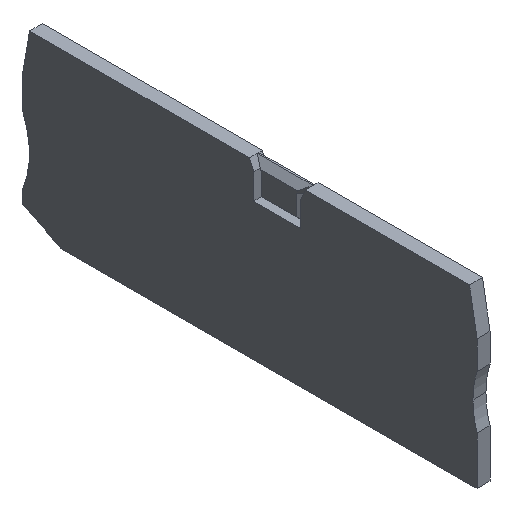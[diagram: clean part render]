
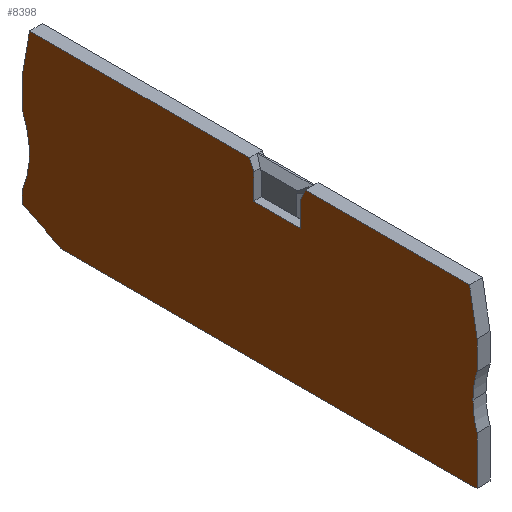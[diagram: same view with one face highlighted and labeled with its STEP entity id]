
A CAD part, isometric view. The second image highlights one B-rep face of the part: STEP entity #8398.
In plain terms, the highlighted planar face has unit normal (-1, 0, 0).
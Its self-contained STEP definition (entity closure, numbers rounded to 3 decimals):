
#7777=CARTESIAN_POINT('',(0.,75.619,29.05));
#7778=VERTEX_POINT('',#7777);
#7785=CARTESIAN_POINT('',(0.,38.418,29.05));
#7786=VERTEX_POINT('',#7785);
#7787=CARTESIAN_POINT('',(0.,75.619,29.05));
#7788=DIRECTION('',(-0.,-1.,-0.));
#7789=VECTOR('',#7788,37.201);
#7790=LINE('',#7787,#7789);
#7791=EDGE_CURVE('',#7778,#7786,#7790,.T.);
#7809=CARTESIAN_POINT('',(0.,28.982,29.05));
#7810=VERTEX_POINT('',#7809);
#7817=CARTESIAN_POINT('',(0.,1.181,29.05));
#7818=VERTEX_POINT('',#7817);
#7819=CARTESIAN_POINT('',(0.,28.982,29.05));
#7820=DIRECTION('',(-0.,-1.,-0.));
#7821=VECTOR('',#7820,27.801);
#7822=LINE('',#7819,#7821);
#7823=EDGE_CURVE('',#7810,#7818,#7822,.T.);
#8160=CARTESIAN_POINT('',(0.,37.7,23.05));
#8161=VERTEX_POINT('',#8160);
#8169=CARTESIAN_POINT('',(0.,37.7,27.35));
#8170=VERTEX_POINT('',#8169);
#8177=CARTESIAN_POINT('',(0.,37.7,23.05));
#8178=DIRECTION('',(0.,0.,1.));
#8179=VECTOR('',#8178,4.3);
#8180=LINE('',#8177,#8179);
#8181=EDGE_CURVE('',#8161,#8170,#8180,.T.);
#8194=CARTESIAN_POINT('',(0.,37.7,27.35));
#8195=DIRECTION('',(0.,0.389,0.921));
#8196=VECTOR('',#8195,1.846);
#8197=LINE('',#8194,#8196);
#8198=EDGE_CURVE('',#8170,#7786,#8197,.T.);
#8210=CARTESIAN_POINT('',(0.,29.7,27.35));
#8211=VERTEX_POINT('',#8210);
#8218=CARTESIAN_POINT('',(0.,28.982,29.05));
#8219=DIRECTION('',(0.,0.389,-0.921));
#8220=VECTOR('',#8219,1.846);
#8221=LINE('',#8218,#8220);
#8222=EDGE_CURVE('',#7810,#8211,#8221,.T.);
#8234=CARTESIAN_POINT('',(0.,29.7,23.05));
#8235=VERTEX_POINT('',#8234);
#8242=CARTESIAN_POINT('',(0.,29.7,27.35));
#8243=DIRECTION('',(0.,0.,-1.));
#8244=VECTOR('',#8243,4.3);
#8245=LINE('',#8242,#8244);
#8246=EDGE_CURVE('',#8211,#8235,#8245,.T.);
#8278=CARTESIAN_POINT('',(0.,-0.1,21.787));
#8279=VERTEX_POINT('',#8278);
#8288=CARTESIAN_POINT('',(0.,-0.1,21.787));
#8289=DIRECTION('',(0.,0.174,0.985));
#8290=VECTOR('',#8289,7.375);
#8291=LINE('',#8288,#8290);
#8292=EDGE_CURVE('',#8279,#7818,#8291,.T.);
#8297=CARTESIAN_POINT('',(0.,43.7,0.5));
#8298=DIRECTION('',(-1.,0.,0.));
#8299=DIRECTION('',(0.,-1.,0.));
#8300=AXIS2_PLACEMENT_3D('',#8297,#8298,#8299);
#8301=PLANE('',#8300);
#8302=CARTESIAN_POINT('',(0.,-0.1,-0.15));
#8303=VERTEX_POINT('',#8302);
#8304=CARTESIAN_POINT('',(0.,-0.1,8.));
#8305=VERTEX_POINT('',#8304);
#8306=CARTESIAN_POINT('',(0.,-0.1,-0.15));
#8307=DIRECTION('',(0.,0.,1.));
#8308=VECTOR('',#8307,8.15);
#8309=LINE('',#8306,#8308);
#8310=EDGE_CURVE('',#8303,#8305,#8309,.T.);
#8311=ORIENTED_EDGE('',*,*,#8310,.T.);
#8312=CARTESIAN_POINT('',(0.,0.591,12.5));
#8313=VERTEX_POINT('',#8312);
#8314=CARTESIAN_POINT('',(0.,-14.409,12.5));
#8315=DIRECTION('',(1.,0.,0.));
#8316=DIRECTION('',(-0.,1.,0.));
#8317=AXIS2_PLACEMENT_3D('',#8314,#8315,#8316);
#8318=CIRCLE('',#8317,15.);
#8319=EDGE_CURVE('',#8305,#8313,#8318,.T.);
#8320=ORIENTED_EDGE('',*,*,#8319,.T.);
#8321=CARTESIAN_POINT('',(0.,-0.1,17.));
#8322=VERTEX_POINT('',#8321);
#8323=CARTESIAN_POINT('',(0.,-14.409,12.5));
#8324=DIRECTION('',(1.,0.,0.));
#8325=DIRECTION('',(-0.,1.,0.));
#8326=AXIS2_PLACEMENT_3D('',#8323,#8324,#8325);
#8327=CIRCLE('',#8326,15.);
#8328=EDGE_CURVE('',#8313,#8322,#8327,.T.);
#8329=ORIENTED_EDGE('',*,*,#8328,.T.);
#8330=CARTESIAN_POINT('',(0.,-0.1,17.));
#8331=DIRECTION('',(0.,0.,1.));
#8332=VECTOR('',#8331,4.787);
#8333=LINE('',#8330,#8332);
#8334=EDGE_CURVE('',#8322,#8279,#8333,.T.);
#8335=ORIENTED_EDGE('',*,*,#8334,.T.);
#8336=ORIENTED_EDGE('',*,*,#8292,.T.);
#8337=ORIENTED_EDGE('',*,*,#7823,.F.);
#8338=ORIENTED_EDGE('',*,*,#8222,.T.);
#8339=ORIENTED_EDGE('',*,*,#8246,.T.);
#8340=CARTESIAN_POINT('',(0.,29.7,23.05));
#8341=DIRECTION('',(-0.,1.,-0.));
#8342=VECTOR('',#8341,8.);
#8343=LINE('',#8340,#8342);
#8344=EDGE_CURVE('',#8235,#8161,#8343,.T.);
#8345=ORIENTED_EDGE('',*,*,#8344,.T.);
#8346=ORIENTED_EDGE('',*,*,#8181,.T.);
#8347=ORIENTED_EDGE('',*,*,#8198,.T.);
#8348=ORIENTED_EDGE('',*,*,#7791,.F.);
#8349=CARTESIAN_POINT('',(0.,76.9,21.787));
#8350=VERTEX_POINT('',#8349);
#8351=CARTESIAN_POINT('',(0.,75.619,29.05));
#8352=DIRECTION('',(0.,0.174,-0.985));
#8353=VECTOR('',#8352,7.375);
#8354=LINE('',#8351,#8353);
#8355=EDGE_CURVE('',#7778,#8350,#8354,.T.);
#8356=ORIENTED_EDGE('',*,*,#8355,.T.);
#8357=CARTESIAN_POINT('',(0.,76.9,17.));
#8358=VERTEX_POINT('',#8357);
#8359=CARTESIAN_POINT('',(0.,76.9,17.));
#8360=DIRECTION('',(-0.,-0.,1.));
#8361=VECTOR('',#8360,4.787);
#8362=LINE('',#8359,#8361);
#8363=EDGE_CURVE('',#8358,#8350,#8362,.T.);
#8364=ORIENTED_EDGE('',*,*,#8363,.F.);
#8365=CARTESIAN_POINT('',(0.,76.9,5.));
#8366=VERTEX_POINT('',#8365);
#8367=CARTESIAN_POINT('',(0.,90.648,11.));
#8368=DIRECTION('',(1.,0.,0.));
#8369=DIRECTION('',(-0.,1.,0.));
#8370=AXIS2_PLACEMENT_3D('',#8367,#8368,#8369);
#8371=CIRCLE('',#8370,15.);
#8372=EDGE_CURVE('',#8358,#8366,#8371,.T.);
#8373=ORIENTED_EDGE('',*,*,#8372,.T.);
#8374=CARTESIAN_POINT('',(0.,76.9,3.136));
#8375=VERTEX_POINT('',#8374);
#8376=CARTESIAN_POINT('',(0.,76.9,3.136));
#8377=DIRECTION('',(-0.,-0.,1.));
#8378=VECTOR('',#8377,1.864);
#8379=LINE('',#8376,#8378);
#8380=EDGE_CURVE('',#8375,#8366,#8379,.T.);
#8381=ORIENTED_EDGE('',*,*,#8380,.F.);
#8382=CARTESIAN_POINT('',(0.,70.308,-0.15));
#8383=VERTEX_POINT('',#8382);
#8384=CARTESIAN_POINT('',(0.,70.308,-0.15));
#8385=DIRECTION('',(-0.,0.895,0.446));
#8386=VECTOR('',#8385,7.366);
#8387=LINE('',#8384,#8386);
#8388=EDGE_CURVE('',#8383,#8375,#8387,.T.);
#8389=ORIENTED_EDGE('',*,*,#8388,.F.);
#8390=CARTESIAN_POINT('',(0.,70.308,-0.15));
#8391=DIRECTION('',(0.,-1.,0.));
#8392=VECTOR('',#8391,70.408);
#8393=LINE('',#8390,#8392);
#8394=EDGE_CURVE('',#8383,#8303,#8393,.T.);
#8395=ORIENTED_EDGE('',*,*,#8394,.T.);
#8396=EDGE_LOOP('',(#8311,#8320,#8329,#8335,#8336,#8337,#8338,#8339,#8345,#8346,#8347,#8348,#8356,#8364,#8373,#8381,#8389,#8395));
#8397=FACE_BOUND('',#8396,.T.);
#8398=ADVANCED_FACE('',(#8397),#8301,.T.);
